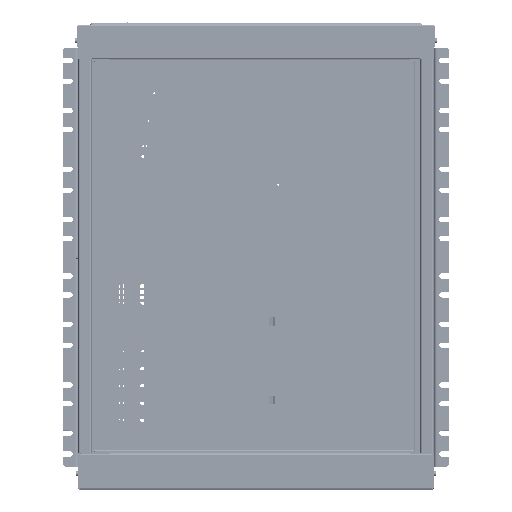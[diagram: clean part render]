
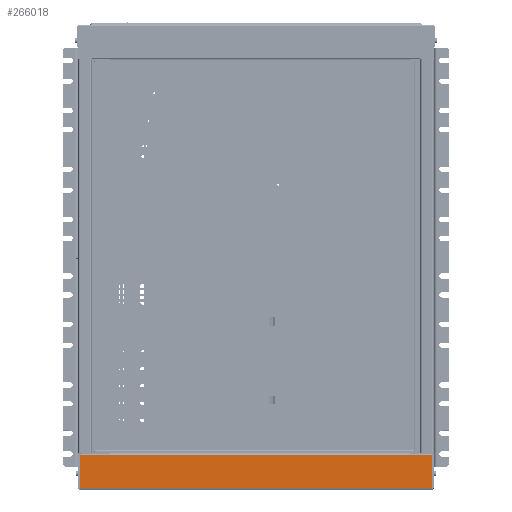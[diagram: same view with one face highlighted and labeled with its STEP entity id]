
A CAD part, top view. The second image highlights one B-rep face of the part: STEP entity #266018.
In plain terms, the highlighted planar face has unit normal (0, 0, 1).
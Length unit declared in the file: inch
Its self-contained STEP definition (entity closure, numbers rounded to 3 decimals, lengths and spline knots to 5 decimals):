
#141512 = EDGE_LOOP ( 'NONE', ( #440476, #440495, #440515, #440526 ) ) ;
#173776 = CARTESIAN_POINT ( 'NONE',  ( -10.5053, 0.0947, 8.0122 ) ) ;
#173783 = CARTESIAN_POINT ( 'NONE',  ( 10.5053, 2.0547, 8.0122 ) ) ;
#173802 = CARTESIAN_POINT ( 'NONE',  ( 10.5053, 0.0947, 8.0122 ) ) ;
#173810 = CARTESIAN_POINT ( 'NONE',  ( -10.5053, 2.0547, 8.0122 ) ) ;
#266018 = ADVANCED_FACE ( 'NONE', ( #375033 ), #532513, .T. ) ;
#273208 = EDGE_CURVE ( 'NONE', #456169, #456160, #395465, .T. ) ;
#273215 = EDGE_CURVE ( 'NONE', #456169, #456173, #395476, .T. ) ;
#273218 = EDGE_CURVE ( 'NONE', #456156, #456173, #395503, .T. ) ;
#273221 = EDGE_CURVE ( 'NONE', #456156, #456160, #395516, .T. ) ;
#356553 = AXIS2_PLACEMENT_3D ( 'NONE', #532505, #532485, #532522 ) ;
#375033 = FACE_OUTER_BOUND ( 'NONE', #141512, .T. ) ;
#395465 = LINE ( 'NONE', #404961, #395497 ) ;
#395476 = LINE ( 'NONE', #404975, #395521 ) ;
#395497 = VECTOR ( 'NONE', #404990, 39.37008 ) ;
#395503 = LINE ( 'NONE', #404986, #395534 ) ;
#395516 = LINE ( 'NONE', #405004, #395547 ) ;
#395521 = VECTOR ( 'NONE', #405013, 39.37008 ) ;
#395534 = VECTOR ( 'NONE', #405024, 39.37008 ) ;
#395547 = VECTOR ( 'NONE', #405032, 39.37008 ) ;
#404961 = CARTESIAN_POINT ( 'NONE',  ( 10.5053, 0.0747, 8.0122 ) ) ;
#404975 = CARTESIAN_POINT ( 'NONE',  ( 10.5053, 2.0547, 8.0122 ) ) ;
#404986 = CARTESIAN_POINT ( 'NONE',  ( -10.5053, 2.0747, 8.0122 ) ) ;
#404990 = DIRECTION ( 'NONE',  ( 0., -1., 0. ) ) ;
#405004 = CARTESIAN_POINT ( 'NONE',  ( 10.5053, 0.0947, 8.0122 ) ) ;
#405013 = DIRECTION ( 'NONE',  ( -1., 0., 0. ) ) ;
#405024 = DIRECTION ( 'NONE',  ( 0., 1., 0. ) ) ;
#405032 = DIRECTION ( 'NONE',  ( 1., 0., 0. ) ) ;
#440476 = ORIENTED_EDGE ( 'NONE', *, *, #273208, .F. ) ;
#440495 = ORIENTED_EDGE ( 'NONE', *, *, #273215, .T. ) ;
#440515 = ORIENTED_EDGE ( 'NONE', *, *, #273218, .F. ) ;
#440526 = ORIENTED_EDGE ( 'NONE', *, *, #273221, .T. ) ;
#456156 = VERTEX_POINT ( 'NONE', #173776 ) ;
#456160 = VERTEX_POINT ( 'NONE', #173802 ) ;
#456169 = VERTEX_POINT ( 'NONE', #173783 ) ;
#456173 = VERTEX_POINT ( 'NONE', #173810 ) ;
#532485 = DIRECTION ( 'NONE',  ( 0., 0., 1. ) ) ;
#532505 = CARTESIAN_POINT ( 'NONE',  ( 10.5053, 0.0747, 8.0122 ) ) ;
#532513 = PLANE ( 'NONE',  #356553 ) ;
#532522 = DIRECTION ( 'NONE',  ( 0., -1., 0. ) ) ;
